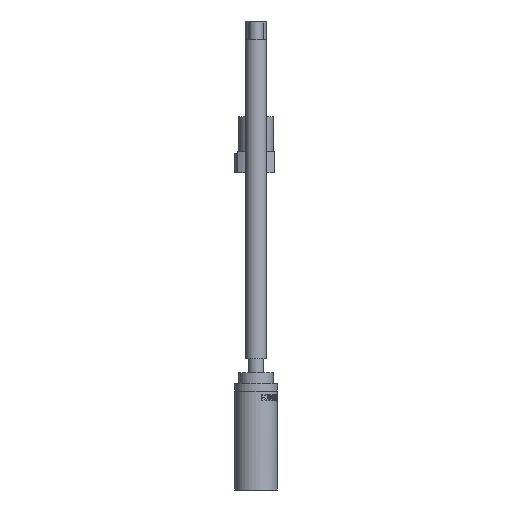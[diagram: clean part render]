
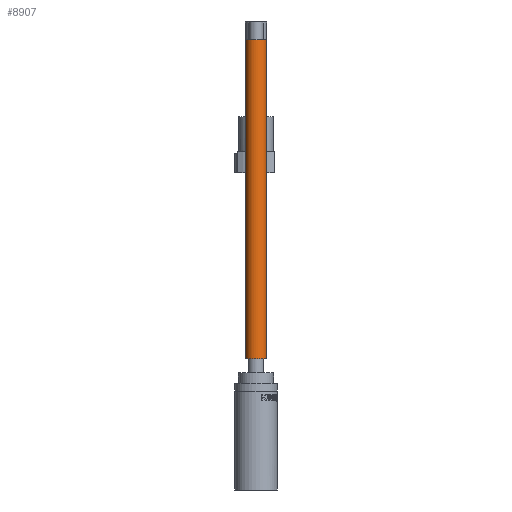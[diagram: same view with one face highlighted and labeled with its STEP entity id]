
A CAD part, left-side view. The second image highlights one B-rep face of the part: STEP entity #8907.
In plain terms, the highlighted cylindrical face has radius 1.5 mm (diameter 3 mm), a full revolution.
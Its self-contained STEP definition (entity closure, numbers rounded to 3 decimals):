
#8907=ADVANCED_FACE('',(#9721,#9722),#9131,.T.);
#9131=CYLINDRICAL_SURFACE('',#20699,1.5);
#9721=FACE_BOUND('',#11041,.T.);
#9722=FACE_BOUND('',#11042,.T.);
#11041=EDGE_LOOP('',(#15208));
#11042=EDGE_LOOP('',(#15209));
#15208=ORIENTED_EDGE('',*,*,#18949,.F.);
#15209=ORIENTED_EDGE('',*,*,#18950,.T.);
#16827=VERTEX_POINT('',#41042);
#16828=VERTEX_POINT('',#41044);
#18949=EDGE_CURVE('',#16827,#16827,#19472,.T.);
#18950=EDGE_CURVE('',#16828,#16828,#19473,.T.);
#19472=CIRCLE('',#20697,1.5);
#19473=CIRCLE('',#20698,1.5);
#20697=AXIS2_PLACEMENT_3D('',#41041,#23551,#23552);
#20698=AXIS2_PLACEMENT_3D('',#41043,#23553,#23554);
#20699=AXIS2_PLACEMENT_3D('',#41045,#23555,#23556);
#23551=DIRECTION('',(0.,0.,-1.));
#23552=DIRECTION('',(-1.,0.,0.));
#23553=DIRECTION('',(0.,0.,-1.));
#23554=DIRECTION('',(-1.,0.,0.));
#23555=DIRECTION('',(0.,0.,-1.));
#23556=DIRECTION('',(-1.,0.,0.));
#41041=CARTESIAN_POINT('',(-52.,0.,18.7));
#41042=CARTESIAN_POINT('',(-53.5,0.,18.7));
#41043=CARTESIAN_POINT('',(-52.,0.,64.2));
#41044=CARTESIAN_POINT('',(-53.5,0.,64.2));
#41045=CARTESIAN_POINT('',(-52.,0.,15.2));
